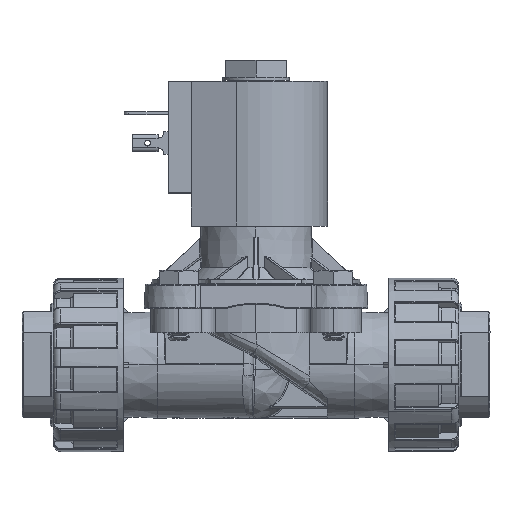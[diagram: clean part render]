
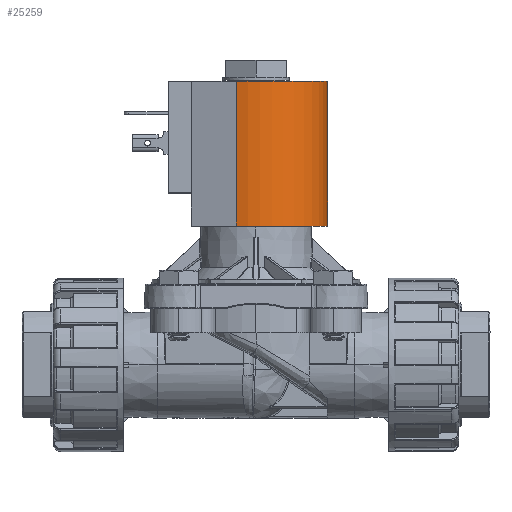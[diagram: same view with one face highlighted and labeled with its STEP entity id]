
A CAD part, top view. The second image highlights one B-rep face of the part: STEP entity #25259.
In plain terms, the highlighted cylindrical face has radius 20.32 mm (diameter 40.64 mm), a partial arc.
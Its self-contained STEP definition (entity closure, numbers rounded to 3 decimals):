
#125 = EDGE_CURVE ( 'NONE', #108854, #78225, #30031, .T. ) ;
#2130 = DIRECTION ( 'NONE',  ( 0., -1., 0. ) ) ;
#12243 = ORIENTED_EDGE ( 'NONE', *, *, #70403, .T. ) ;
#12392 = EDGE_LOOP ( 'NONE', ( #32891, #27894, #53329, #12243 ) ) ;
#15807 = AXIS2_PLACEMENT_3D ( 'NONE', #40632, #86355, #60274 ) ;
#16082 = AXIS2_PLACEMENT_3D ( 'NONE', #87916, #115827, #105665 ) ;
#16574 = DIRECTION ( 'NONE',  ( 1., 0., 0. ) ) ;
#17126 = LINE ( 'NONE', #36785, #42639 ) ;
#18382 = DIRECTION ( 'NONE',  ( 0., -1., 0. ) ) ;
#19164 = EDGE_CURVE ( 'NONE', #108854, #98640, #78874, .T. ) ;
#25259 = ADVANCED_FACE ( 'Defeatured_0_1882', ( #36877 ), #48253, .T. ) ;
#27894 = ORIENTED_EDGE ( 'NONE', *, *, #125, .F. ) ;
#30031 = CIRCLE ( 'NONE', #15807, 20.32 ) ;
#32891 = ORIENTED_EDGE ( 'NONE', *, *, #76026, .F. ) ;
#36785 = CARTESIAN_POINT ( 'NONE',  ( 20.32, 73.508, 0. ) ) ;
#36877 = FACE_OUTER_BOUND ( 'NONE', #12392, .T. ) ;
#40632 = CARTESIAN_POINT ( 'NONE',  ( 0., 73.508, 0. ) ) ;
#42639 = VECTOR ( 'NONE', #18382, 1000. ) ;
#45771 = CARTESIAN_POINT ( 'NONE',  ( 0., 73.508, 0. ) ) ;
#48253 = CYLINDRICAL_SURFACE ( 'NONE', #91969, 20.32 ) ;
#53329 = ORIENTED_EDGE ( 'NONE', *, *, #19164, .T. ) ;
#60274 = DIRECTION ( 'NONE',  ( -1., 0., 0. ) ) ;
#69350 = CARTESIAN_POINT ( 'NONE',  ( -5.608, 73.508, 19.531 ) ) ;
#69878 = CARTESIAN_POINT ( 'NONE',  ( 20.32, 73.508, 0. ) ) ;
#70403 = EDGE_CURVE ( 'NONE', #98640, #76552, #76858, .T. ) ;
#76026 = EDGE_CURVE ( 'NONE', #78225, #76552, #17126, .T. ) ;
#76552 = VERTEX_POINT ( 'NONE', #116535 ) ;
#76858 = CIRCLE ( 'NONE', #16082, 20.32 ) ;
#78225 = VERTEX_POINT ( 'NONE', #69878 ) ;
#78874 = LINE ( 'NONE', #69350, #89436 ) ;
#86355 = DIRECTION ( 'NONE',  ( 0., 1., 0. ) ) ;
#87916 = CARTESIAN_POINT ( 'NONE',  ( 0., 32.36, 0. ) ) ;
#89436 = VECTOR ( 'NONE', #2130, 1000. ) ;
#91969 = AXIS2_PLACEMENT_3D ( 'NONE', #45771, #95854, #16574 ) ;
#95854 = DIRECTION ( 'NONE',  ( 0., -1., 0. ) ) ;
#98640 = VERTEX_POINT ( 'NONE', #101716 ) ;
#101716 = CARTESIAN_POINT ( 'NONE',  ( -5.608, 32.36, 19.531 ) ) ;
#105665 = DIRECTION ( 'NONE',  ( -1., 0., 0. ) ) ;
#108854 = VERTEX_POINT ( 'NONE', #123084 ) ;
#115827 = DIRECTION ( 'NONE',  ( 0., 1., 0. ) ) ;
#116535 = CARTESIAN_POINT ( 'NONE',  ( 20.32, 32.36, 0. ) ) ;
#123084 = CARTESIAN_POINT ( 'NONE',  ( -5.608, 73.508, 19.531 ) ) ;
